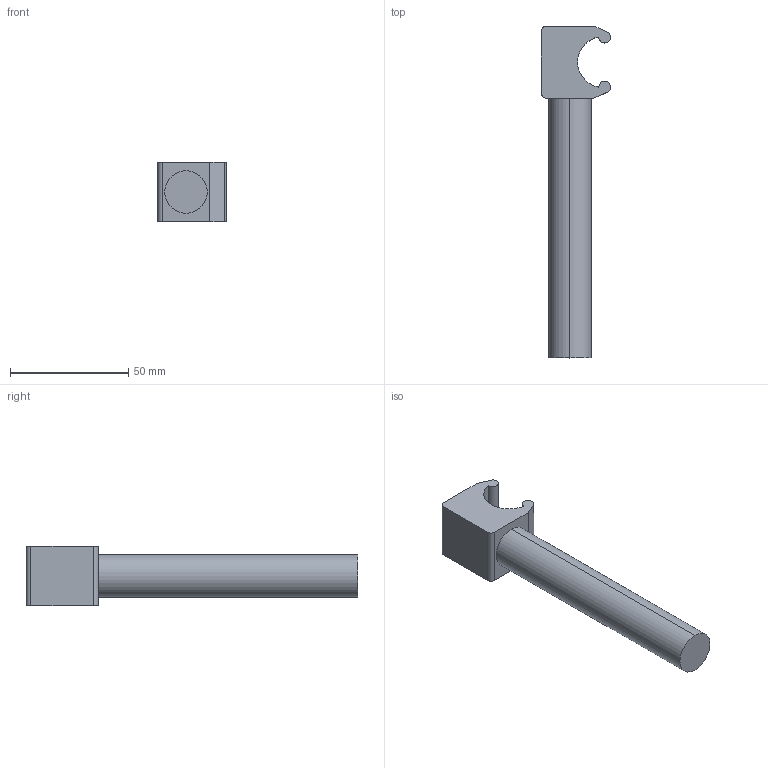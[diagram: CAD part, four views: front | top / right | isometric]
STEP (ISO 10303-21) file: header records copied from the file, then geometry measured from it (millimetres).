
FILE_DESCRIPTION (( 'STEP AP214' ), '1' );
FILE_NAME ('FGRL 18X110C.step', '2017-04-05T07:43:30', ( '' ), ( '' ), 'SwSTEP 2.0', 'SolidWorks 2015', '' );
FILE_SCHEMA (( 'AUTOMOTIVE_DESIGN' ));
Length unit declared in the file: millimetre
Products named in the file (1): FGRL 18X110C
Bounding box: 29.3 x 140.54 x 25 mm (x, y, z)
Volume: 44003.5 mm3; surface area: 10927.7 mm2
Topology: 1 solids, 1 shells, 16 faces, 39 edges, 26 vertices
Faces by surface type: cylinder 8, plane 8
Entity records: 513 total; most frequent: DIRECTION 89, CARTESIAN_POINT 82, ORIENTED_EDGE 78, EDGE_CURVE 39, AXIS2_PLACEMENT_3D 33, VERTEX_POINT 26, VECTOR 23, LINE 23
